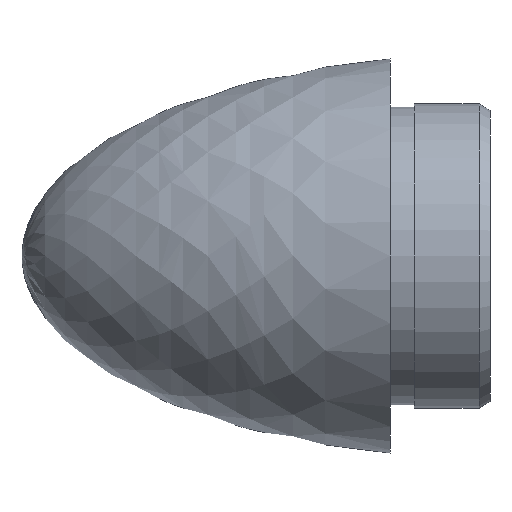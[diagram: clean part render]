
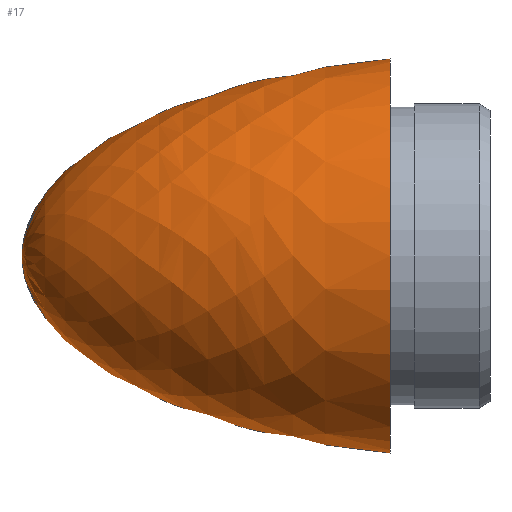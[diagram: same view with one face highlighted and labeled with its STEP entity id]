
A CAD part, left-side view. The second image highlights one B-rep face of the part: STEP entity #17.
In plain terms, the highlighted face is a revolution surface.
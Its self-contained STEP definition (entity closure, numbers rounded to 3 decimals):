
#17 = ADVANCED_FACE('',(#18),#98,.T.);
#18 = FACE_BOUND('',#19,.T.);
#19 = EDGE_LOOP('',(#20,#29,#97));
#20 = ORIENTED_EDGE('',*,*,#21,.T.);
#21 = EDGE_CURVE('',#22,#22,#24,.T.);
#22 = VERTEX_POINT('',#23);
#23 = CARTESIAN_POINT('',(18.257,64.,0.));
#24 = CIRCLE('',#25,18.257);
#25 = AXIS2_PLACEMENT_3D('',#26,#27,#28);
#26 = CARTESIAN_POINT('',(0.,64.,0.));
#27 = DIRECTION('',(-0.,1.,0.));
#28 = DIRECTION('',(1.,0.,0.));
#29 = ORIENTED_EDGE('',*,*,#30,.T.);
#30 = EDGE_CURVE('',#22,#31,#33,.T.);
#31 = VERTEX_POINT('',#32);
#32 = CARTESIAN_POINT('',(0.,98.1,0.));
#33 = B_SPLINE_CURVE_WITH_KNOTS('',3,(#34,#35,#36,#37,#38,#39,#40,#41,
    #42,#43,#44,#45,#46,#47,#48,#49,#50,#51,#52,#53,#54,#55,#56,#57,#58,
    #59,#60,#61,#62,#63,#64,#65,#66,#67,#68,#69,#70,#71,#72,#73,#74,#75,
    #76,#77,#78,#79,#80,#81,#82,#83,#84,#85,#86,#87,#88,#89,#90,#91,#92,
    #93,#94,#95,#96),.UNSPECIFIED.,.F.,.F.,(4,1,1,1,1,1,1,1,1,1,1,1,1,1,
    1,1,1,1,1,1,1,1,1,1,1,1,1,1,1,1,1,1,1,1,1,1,1,1,1,1,1,1,1,1,1,1,1,1,
    1,1,1,1,1,1,1,1,1,1,1,1,4),(0.,0.958,1.912,
    2.861,3.805,4.744,5.677,
    6.605,7.525,8.44,9.347,
    10.246,11.138,12.021,12.896,
    13.763,14.62,15.468,16.306,
    17.134,17.952,18.759,19.556,
    20.342,21.116,21.879,22.63,
    23.37,24.098,24.813,25.517,
    26.208,26.886,27.552,28.206,
    28.847,29.475,30.091,30.695,
    31.286,31.865,32.431,32.986,
    33.529,34.061,34.582,35.092,
    35.591,36.081,36.562,37.033,
    37.496,37.952,38.401,38.843,
    39.281,39.713,40.142,40.569,
    40.993,41.416),.UNSPECIFIED.);
#34 = CARTESIAN_POINT('',(18.257,64.,0.));
#35 = CARTESIAN_POINT('',(18.228,64.318,0.));
#36 = CARTESIAN_POINT('',(18.166,64.952,0.));
#37 = CARTESIAN_POINT('',(18.064,65.9,0.));
#38 = CARTESIAN_POINT('',(17.952,66.843,0.));
#39 = CARTESIAN_POINT('',(17.831,67.779,0.));
#40 = CARTESIAN_POINT('',(17.701,68.709,0.));
#41 = CARTESIAN_POINT('',(17.562,69.632,0.));
#42 = CARTESIAN_POINT('',(17.414,70.547,0.));
#43 = CARTESIAN_POINT('',(17.257,71.454,0.));
#44 = CARTESIAN_POINT('',(17.091,72.353,0.));
#45 = CARTESIAN_POINT('',(16.916,73.243,0.));
#46 = CARTESIAN_POINT('',(16.733,74.123,0.));
#47 = CARTESIAN_POINT('',(16.54,74.994,0.));
#48 = CARTESIAN_POINT('',(16.34,75.854,0.));
#49 = CARTESIAN_POINT('',(16.131,76.704,0.));
#50 = CARTESIAN_POINT('',(15.914,77.543,0.));
#51 = CARTESIAN_POINT('',(15.688,78.37,0.));
#52 = CARTESIAN_POINT('',(15.455,79.185,0.));
#53 = CARTESIAN_POINT('',(15.213,79.987,0.));
#54 = CARTESIAN_POINT('',(14.964,80.777,0.));
#55 = CARTESIAN_POINT('',(14.707,81.553,0.));
#56 = CARTESIAN_POINT('',(14.443,82.316,0.));
#57 = CARTESIAN_POINT('',(14.171,83.065,0.));
#58 = CARTESIAN_POINT('',(13.892,83.799,0.));
#59 = CARTESIAN_POINT('',(13.605,84.519,0.));
#60 = CARTESIAN_POINT('',(13.312,85.223,0.));
#61 = CARTESIAN_POINT('',(13.012,85.912,0.));
#62 = CARTESIAN_POINT('',(12.705,86.585,0.));
#63 = CARTESIAN_POINT('',(12.392,87.242,0.));
#64 = CARTESIAN_POINT('',(12.072,87.882,0.));
#65 = CARTESIAN_POINT('',(11.746,88.505,0.));
#66 = CARTESIAN_POINT('',(11.414,89.111,0.));
#67 = CARTESIAN_POINT('',(11.076,89.7,0.));
#68 = CARTESIAN_POINT('',(10.733,90.27,0.));
#69 = CARTESIAN_POINT('',(10.384,90.823,0.));
#70 = CARTESIAN_POINT('',(10.029,91.357,0.));
#71 = CARTESIAN_POINT('',(9.67,91.873,0.));
#72 = CARTESIAN_POINT('',(9.305,92.369,0.));
#73 = CARTESIAN_POINT('',(8.936,92.846,0.));
#74 = CARTESIAN_POINT('',(8.562,93.304,0.));
#75 = CARTESIAN_POINT('',(8.183,93.743,0.));
#76 = CARTESIAN_POINT('',(7.801,94.161,0.));
#77 = CARTESIAN_POINT('',(7.414,94.559,0.));
#78 = CARTESIAN_POINT('',(7.024,94.937,0.));
#79 = CARTESIAN_POINT('',(6.63,95.295,0.));
#80 = CARTESIAN_POINT('',(6.232,95.631,0.));
#81 = CARTESIAN_POINT('',(5.832,95.947,0.));
#82 = CARTESIAN_POINT('',(5.428,96.242,0.));
#83 = CARTESIAN_POINT('',(5.022,96.515,0.));
#84 = CARTESIAN_POINT('',(4.612,96.768,0.));
#85 = CARTESIAN_POINT('',(4.201,96.999,0.));
#86 = CARTESIAN_POINT('',(3.787,97.208,0.));
#87 = CARTESIAN_POINT('',(3.371,97.395,0.));
#88 = CARTESIAN_POINT('',(2.954,97.561,0.));
#89 = CARTESIAN_POINT('',(2.535,97.705,0.));
#90 = CARTESIAN_POINT('',(2.114,97.826,0.));
#91 = CARTESIAN_POINT('',(1.693,97.926,0.));
#92 = CARTESIAN_POINT('',(1.27,98.004,0.));
#93 = CARTESIAN_POINT('',(0.847,98.059,0.));
#94 = CARTESIAN_POINT('',(0.424,98.093,0.));
#95 = CARTESIAN_POINT('',(0.141,98.1,0.));
#96 = CARTESIAN_POINT('',(0.,98.1,0.));
#97 = ORIENTED_EDGE('',*,*,#30,.F.);
#98 = SURFACE_OF_REVOLUTION('',#99,#163);
#99 = B_SPLINE_CURVE_WITH_KNOTS('',3,(#100,#101,#102,#103,#104,#105,#106
    ,#107,#108,#109,#110,#111,#112,#113,#114,#115,#116,#117,#118,#119,
    #120,#121,#122,#123,#124,#125,#126,#127,#128,#129,#130,#131,#132,
    #133,#134,#135,#136,#137,#138,#139,#140,#141,#142,#143,#144,#145,
    #146,#147,#148,#149,#150,#151,#152,#153,#154,#155,#156,#157,#158,
    #159,#160,#161,#162),.UNSPECIFIED.,.F.,.F.,(4,1,1,1,1,1,1,1,1,1,1,1,
    1,1,1,1,1,1,1,1,1,1,1,1,1,1,1,1,1,1,1,1,1,1,1,1,1,1,1,1,1,1,1,1,1,1,
    1,1,1,1,1,1,1,1,1,1,1,1,1,1,4),(0.,0.958,1.912,
    2.861,3.805,4.744,5.677,
    6.605,7.525,8.44,9.347,
    10.246,11.138,12.021,12.896,
    13.763,14.62,15.468,16.306,
    17.134,17.952,18.759,19.556,
    20.342,21.116,21.879,22.63,
    23.37,24.098,24.813,25.517,
    26.208,26.886,27.552,28.206,
    28.847,29.475,30.091,30.695,
    31.286,31.865,32.431,32.986,
    33.529,34.061,34.582,35.092,
    35.591,36.081,36.562,37.033,
    37.496,37.952,38.401,38.843,
    39.281,39.713,40.142,40.569,
    40.993,41.416),.UNSPECIFIED.);
#100 = CARTESIAN_POINT('',(18.257,64.,0.));
#101 = CARTESIAN_POINT('',(18.228,64.318,0.));
#102 = CARTESIAN_POINT('',(18.166,64.952,0.));
#103 = CARTESIAN_POINT('',(18.064,65.9,0.));
#104 = CARTESIAN_POINT('',(17.952,66.843,0.));
#105 = CARTESIAN_POINT('',(17.831,67.779,0.));
#106 = CARTESIAN_POINT('',(17.701,68.709,0.));
#107 = CARTESIAN_POINT('',(17.562,69.632,0.));
#108 = CARTESIAN_POINT('',(17.414,70.547,0.));
#109 = CARTESIAN_POINT('',(17.257,71.454,0.));
#110 = CARTESIAN_POINT('',(17.091,72.353,0.));
#111 = CARTESIAN_POINT('',(16.916,73.243,0.));
#112 = CARTESIAN_POINT('',(16.733,74.123,0.));
#113 = CARTESIAN_POINT('',(16.54,74.994,0.));
#114 = CARTESIAN_POINT('',(16.34,75.854,0.));
#115 = CARTESIAN_POINT('',(16.131,76.704,0.));
#116 = CARTESIAN_POINT('',(15.914,77.543,0.));
#117 = CARTESIAN_POINT('',(15.688,78.37,0.));
#118 = CARTESIAN_POINT('',(15.455,79.185,0.));
#119 = CARTESIAN_POINT('',(15.213,79.987,0.));
#120 = CARTESIAN_POINT('',(14.964,80.777,0.));
#121 = CARTESIAN_POINT('',(14.707,81.553,0.));
#122 = CARTESIAN_POINT('',(14.443,82.316,0.));
#123 = CARTESIAN_POINT('',(14.171,83.065,0.));
#124 = CARTESIAN_POINT('',(13.892,83.799,0.));
#125 = CARTESIAN_POINT('',(13.605,84.519,0.));
#126 = CARTESIAN_POINT('',(13.312,85.223,0.));
#127 = CARTESIAN_POINT('',(13.012,85.912,0.));
#128 = CARTESIAN_POINT('',(12.705,86.585,0.));
#129 = CARTESIAN_POINT('',(12.392,87.242,0.));
#130 = CARTESIAN_POINT('',(12.072,87.882,0.));
#131 = CARTESIAN_POINT('',(11.746,88.505,0.));
#132 = CARTESIAN_POINT('',(11.414,89.111,0.));
#133 = CARTESIAN_POINT('',(11.076,89.7,0.));
#134 = CARTESIAN_POINT('',(10.733,90.27,0.));
#135 = CARTESIAN_POINT('',(10.384,90.823,0.));
#136 = CARTESIAN_POINT('',(10.029,91.357,0.));
#137 = CARTESIAN_POINT('',(9.67,91.873,0.));
#138 = CARTESIAN_POINT('',(9.305,92.369,0.));
#139 = CARTESIAN_POINT('',(8.936,92.846,0.));
#140 = CARTESIAN_POINT('',(8.562,93.304,0.));
#141 = CARTESIAN_POINT('',(8.183,93.743,0.));
#142 = CARTESIAN_POINT('',(7.801,94.161,0.));
#143 = CARTESIAN_POINT('',(7.414,94.559,0.));
#144 = CARTESIAN_POINT('',(7.024,94.937,0.));
#145 = CARTESIAN_POINT('',(6.63,95.295,0.));
#146 = CARTESIAN_POINT('',(6.232,95.631,0.));
#147 = CARTESIAN_POINT('',(5.832,95.947,0.));
#148 = CARTESIAN_POINT('',(5.428,96.242,0.));
#149 = CARTESIAN_POINT('',(5.022,96.515,0.));
#150 = CARTESIAN_POINT('',(4.612,96.768,0.));
#151 = CARTESIAN_POINT('',(4.201,96.999,0.));
#152 = CARTESIAN_POINT('',(3.787,97.208,0.));
#153 = CARTESIAN_POINT('',(3.371,97.395,0.));
#154 = CARTESIAN_POINT('',(2.954,97.561,0.));
#155 = CARTESIAN_POINT('',(2.535,97.705,0.));
#156 = CARTESIAN_POINT('',(2.114,97.826,0.));
#157 = CARTESIAN_POINT('',(1.693,97.926,0.));
#158 = CARTESIAN_POINT('',(1.27,98.004,0.));
#159 = CARTESIAN_POINT('',(0.847,98.059,0.));
#160 = CARTESIAN_POINT('',(0.424,98.093,0.));
#161 = CARTESIAN_POINT('',(0.141,98.1,0.));
#162 = CARTESIAN_POINT('',(0.,98.1,0.));
#163 = AXIS1_PLACEMENT('',#164,#165);
#164 = CARTESIAN_POINT('',(0.,0.,0.));
#165 = DIRECTION('',(0.,1.,0.));
